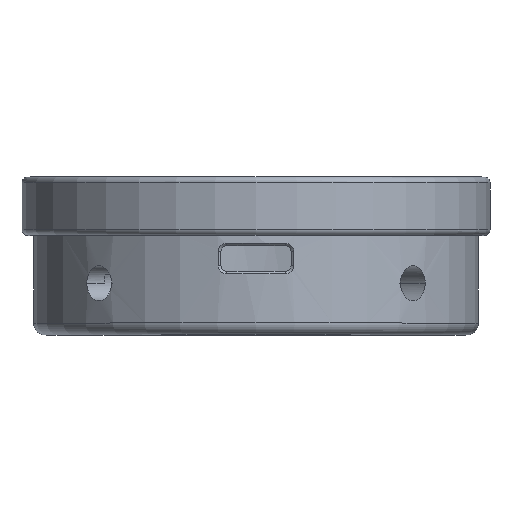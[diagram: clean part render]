
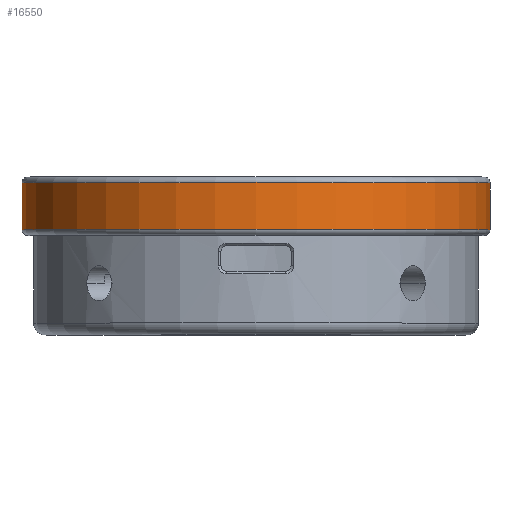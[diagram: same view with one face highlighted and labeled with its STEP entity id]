
A CAD part, top view. The second image highlights one B-rep face of the part: STEP entity #16550.
In plain terms, the highlighted cylindrical face has radius 20 mm (diameter 40 mm), a partial arc.
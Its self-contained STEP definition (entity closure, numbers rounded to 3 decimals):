
#31=CARTESIAN_POINT('',(0.,-0.5,0.));
#32=DIRECTION('',(0.,1.,0.));
#33=DIRECTION('',(-1.,0.,0.));
#34=AXIS2_PLACEMENT_3D('',#31,#32,#33);
#36=DIRECTION('',(0.,-1.,0.));
#37=VECTOR('',#36,4.);
#38=CARTESIAN_POINT('',(20.,-0.5,0.));
#39=LINE('',#38,#37);
#40=CARTESIAN_POINT('',(0.,-4.5,0.));
#41=DIRECTION('',(0.,1.,0.));
#42=DIRECTION('',(-1.,0.,0.));
#43=AXIS2_PLACEMENT_3D('',#40,#41,#42);
#50=DIRECTION('',(0.,-1.,0.));
#51=VECTOR('',#50,4.);
#52=CARTESIAN_POINT('',(-20.,-0.5,0.));
#53=LINE('',#52,#51);
#13192=CARTESIAN_POINT('',(20.,-0.5,0.));
#13193=CARTESIAN_POINT('',(-20.,-0.5,0.));
#13194=VERTEX_POINT('',#13192);
#13195=VERTEX_POINT('',#13193);
#13196=CARTESIAN_POINT('',(20.,-4.5,0.));
#13197=CARTESIAN_POINT('',(-20.,-4.5,0.));
#13198=VERTEX_POINT('',#13196);
#13199=VERTEX_POINT('',#13197);
#16536=CARTESIAN_POINT('',(0.,0.,0.));
#16537=DIRECTION('',(0.,-1.,0.));
#16538=DIRECTION('',(-1.,0.,0.));
#16539=AXIS2_PLACEMENT_3D('',#16536,#16537,#16538);
#16540=CYLINDRICAL_SURFACE('',#16539,20.);
#16541=ORIENTED_EDGE('',*,*,#16530,.T.);
#16543=ORIENTED_EDGE('',*,*,#16542,.T.);
#16545=ORIENTED_EDGE('',*,*,#16544,.F.);
#16547=ORIENTED_EDGE('',*,*,#16546,.F.);
#16548=EDGE_LOOP('',(#16541,#16543,#16545,#16547));
#16549=FACE_OUTER_BOUND('',#16548,.F.);
#16550=ADVANCED_FACE('',(#16549),#16540,.T.);
#35=CIRCLE('',#34,20.);
#44=CIRCLE('',#43,20.);
#16530=EDGE_CURVE('',#13195,#13194,#35,.T.);
#16542=EDGE_CURVE('',#13194,#13198,#39,.T.);
#16544=EDGE_CURVE('',#13199,#13198,#44,.T.);
#16546=EDGE_CURVE('',#13195,#13199,#53,.T.);
